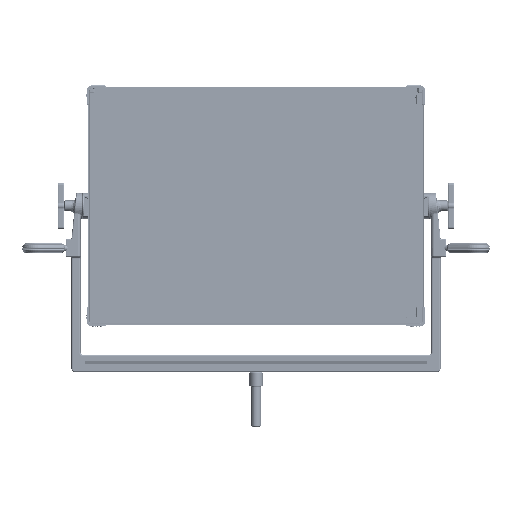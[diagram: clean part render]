
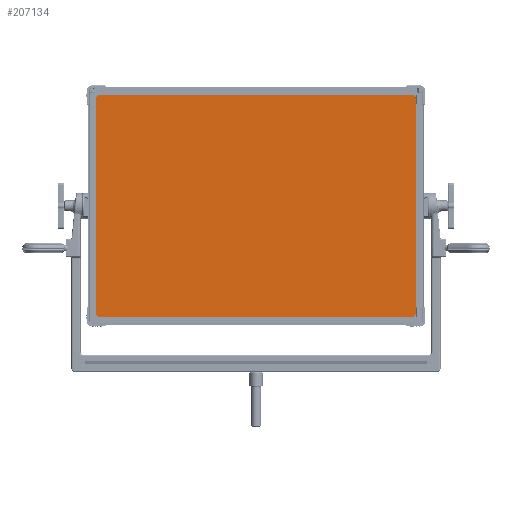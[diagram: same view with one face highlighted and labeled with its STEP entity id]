
A CAD part, front view. The second image highlights one B-rep face of the part: STEP entity #207134.
In plain terms, the highlighted planar face has unit normal (0, -1, 0) as drawn and (0, 1, 0) by its records, which use the part's own axes.
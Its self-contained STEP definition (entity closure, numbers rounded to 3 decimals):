
#9799=CIRCLE('',#232363,12.4);
#9803=CIRCLE('',#232369,12.4);
#9807=CIRCLE('',#232375,12.4);
#9809=CIRCLE('',#232378,12.4);
#20507=PLANE('',#244503);
#24622=LINE('',#338940,#38938);
#24624=LINE('',#338949,#38940);
#24626=LINE('',#338961,#38942);
#24628=LINE('',#338973,#38944);
#38938=VECTOR('',#263019,1000.);
#38940=VECTOR('',#263027,1000.);
#38942=VECTOR('',#263041,1000.);
#38944=VECTOR('',#263055,1000.);
#108163=ORIENTED_EDGE('',*,*,#121992,.T.);
#108164=ORIENTED_EDGE('',*,*,#122002,.T.);
#108165=ORIENTED_EDGE('',*,*,#121998,.T.);
#108166=ORIENTED_EDGE('',*,*,#122008,.T.);
#108167=ORIENTED_EDGE('',*,*,#122004,.T.);
#108168=ORIENTED_EDGE('',*,*,#122010,.T.);
#108169=ORIENTED_EDGE('',*,*,#121988,.T.);
#108170=ORIENTED_EDGE('',*,*,#121996,.T.);
#121988=EDGE_CURVE('',#148733,#148734,#24622,.F.);
#121992=EDGE_CURVE('',#148737,#148738,#24624,.F.);
#121996=EDGE_CURVE('',#148734,#148737,#9799,.T.);
#121998=EDGE_CURVE('',#148741,#148742,#24626,.F.);
#122002=EDGE_CURVE('',#148738,#148741,#9803,.T.);
#122004=EDGE_CURVE('',#148745,#148746,#24628,.F.);
#122008=EDGE_CURVE('',#148742,#148745,#9807,.T.);
#122010=EDGE_CURVE('',#148746,#148733,#9809,.T.);
#148733=VERTEX_POINT('',#338941);
#148734=VERTEX_POINT('',#338942);
#148737=VERTEX_POINT('',#338950);
#148738=VERTEX_POINT('',#338951);
#148741=VERTEX_POINT('',#338962);
#148742=VERTEX_POINT('',#338963);
#148745=VERTEX_POINT('',#338974);
#148746=VERTEX_POINT('',#338975);
#179877=EDGE_LOOP('',(#108163,#108164,#108165,#108166,#108167,#108168,#108169,
#108170));
#193496=FACE_BOUND('',#179877,.T.);
#207134=ADVANCED_FACE('',(#193496),#20507,.F.);
#232363=AXIS2_PLACEMENT_3D('',#338958,#263035,#263036);
#232369=AXIS2_PLACEMENT_3D('',#338970,#263049,#263050);
#232375=AXIS2_PLACEMENT_3D('',#338982,#263063,#263064);
#232378=AXIS2_PLACEMENT_3D('',#338985,#263069,#263070);
#244503=AXIS2_PLACEMENT_3D('',#522616,#296916,#296917);
#263019=DIRECTION('',(1.,0.,0.));
#263027=DIRECTION('',(0.,0.,-1.));
#263035=DIRECTION('',(0.,1.,0.));
#263036=DIRECTION('',(0.,0.,1.));
#263041=DIRECTION('',(-1.,0.,0.));
#263049=DIRECTION('',(0.,1.,0.));
#263050=DIRECTION('',(0.,0.,1.));
#263055=DIRECTION('',(0.,0.,1.));
#263063=DIRECTION('',(0.,1.,0.));
#263064=DIRECTION('',(0.,0.,1.));
#263069=DIRECTION('',(0.,1.,0.));
#263070=DIRECTION('',(0.,0.,1.));
#296916=DIRECTION('',(0.,-1.,0.));
#296917=DIRECTION('',(0.,0.,1.));
#338940=CARTESIAN_POINT('',(149.,40.617,-316.4));
#338941=CARTESIAN_POINT('',(443.,40.617,-316.4));
#338942=CARTESIAN_POINT('',(-443.,40.617,-316.4));
#338949=CARTESIAN_POINT('',(-455.4,40.617,288.));
#338950=CARTESIAN_POINT('',(-455.4,40.617,-304.));
#338951=CARTESIAN_POINT('',(-455.4,40.617,304.));
#338958=CARTESIAN_POINT('',(-443.,40.617,-304.));
#338961=CARTESIAN_POINT('',(149.,40.617,316.4));
#338962=CARTESIAN_POINT('',(-443.,40.617,316.4));
#338963=CARTESIAN_POINT('',(443.,40.617,316.4));
#338970=CARTESIAN_POINT('',(-443.,40.617,304.));
#338973=CARTESIAN_POINT('',(455.4,40.617,-288.));
#338974=CARTESIAN_POINT('',(455.4,40.617,304.));
#338975=CARTESIAN_POINT('',(455.4,40.617,-304.));
#338982=CARTESIAN_POINT('',(443.,40.617,304.));
#338985=CARTESIAN_POINT('',(443.,40.617,-304.));
#522616=CARTESIAN_POINT('',(149.,40.617,-321.5));
